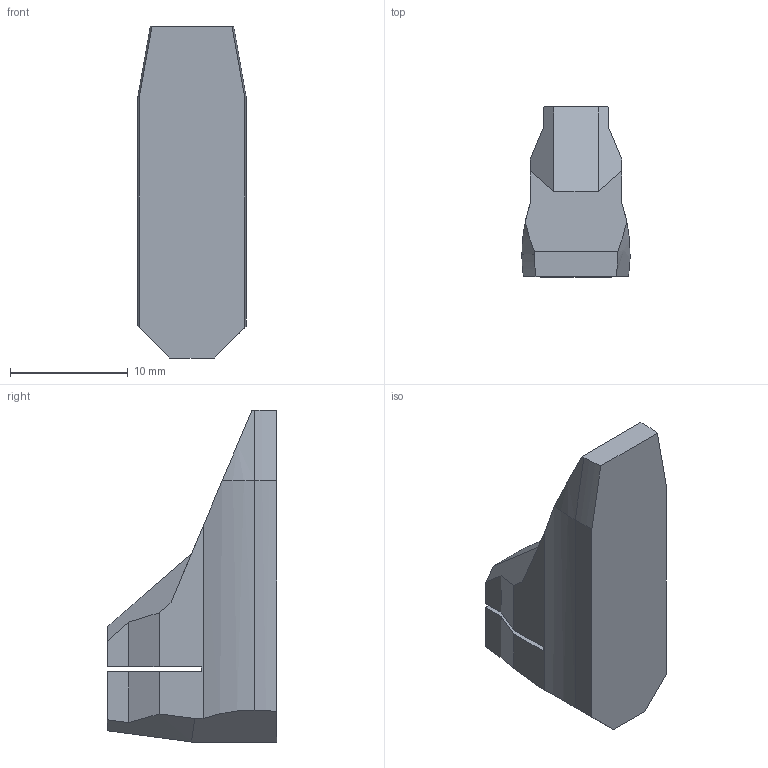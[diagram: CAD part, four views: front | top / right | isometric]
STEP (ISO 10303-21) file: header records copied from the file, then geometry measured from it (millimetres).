
FILE_DESCRIPTION (( 'STEP AP214' ), '1' );
FILE_NAME ('B1-leg-shoe.step', '2023-08-03T13:48:27', ( '' ), ( '' ), 'SwSTEP 2.0', 'SolidWorks 2020', '' );
FILE_SCHEMA (( 'AUTOMOTIVE_DESIGN' ));
Length unit declared in the file: millimetre
Products named in the file (1): B1-leg-shoe
Bounding box: 9.2 x 14.43 x 28.21 mm (x, y, z)
Volume: 1913.1 mm3; surface area: 1232.9 mm2
Topology: 1 solids, 1 shells, 42 faces, 117 edges, 77 vertices
Faces by surface type: plane 33, cylinder 6, cone 3
Entity records: 1367 total; most frequent: CARTESIAN_POINT 270, ORIENTED_EDGE 234, DIRECTION 204, EDGE_CURVE 117, LINE 94, VECTOR 94, VERTEX_POINT 77, AXIS2_PLACEMENT_3D 55
